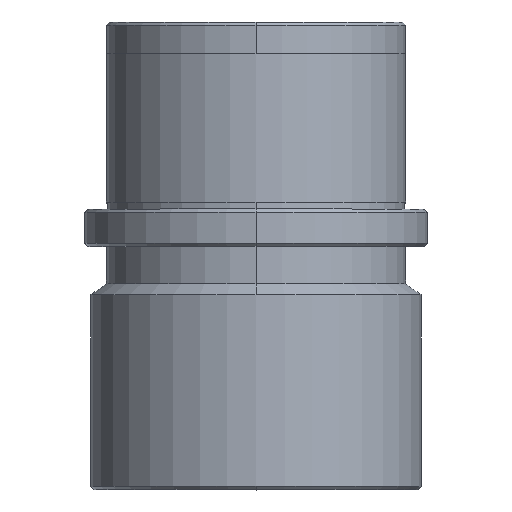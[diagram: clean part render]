
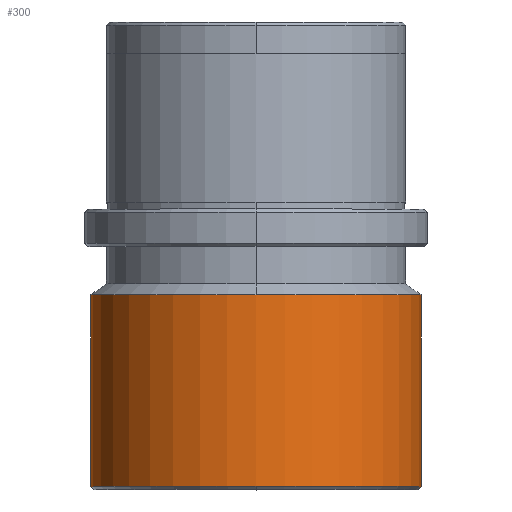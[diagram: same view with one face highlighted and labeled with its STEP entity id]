
A CAD part, top view. The second image highlights one B-rep face of the part: STEP entity #300.
In plain terms, the highlighted cylindrical face has radius 26.5 mm (diameter 53 mm), a partial arc.
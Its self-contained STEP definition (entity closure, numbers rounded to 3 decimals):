
#12 = DIRECTION ( 'NONE',  ( 0., -1., 0. ) ) ;
#14 = EDGE_CURVE ( 'NONE', #532, #1367, #992, .T. ) ;
#41 = CARTESIAN_POINT ( 'NONE',  ( 26.5, -38.5, 0. ) ) ;
#68 = ORIENTED_EDGE ( 'NONE', *, *, #14, .F. ) ;
#81 = CARTESIAN_POINT ( 'NONE',  ( 26.5, -7.732, 0. ) ) ;
#96 = DIRECTION ( 'NONE',  ( -1., 0., 0. ) ) ;
#157 = CARTESIAN_POINT ( 'NONE',  ( 0., -7.732, 26.5 ) ) ;
#161 = CIRCLE ( 'NONE', #172, 26.5 ) ;
#167 = CARTESIAN_POINT ( 'NONE',  ( 0., -7.732, 0. ) ) ;
#172 = AXIS2_PLACEMENT_3D ( 'NONE', #1349, #1063, #937 ) ;
#178 = ORIENTED_EDGE ( 'NONE', *, *, #925, .T. ) ;
#192 = LINE ( 'NONE', #41, #472 ) ;
#207 = EDGE_CURVE ( 'NONE', #581, #686, #842, .T. ) ;
#246 = DIRECTION ( 'NONE',  ( 0., 1., 0. ) ) ;
#300 = ADVANCED_FACE ( 'NONE', ( #696 ), #987, .T. ) ;
#346 = EDGE_CURVE ( 'NONE', #970, #581, #192, .T. ) ;
#352 = DIRECTION ( 'NONE',  ( 0., 0., 1. ) ) ;
#400 = EDGE_CURVE ( 'NONE', #532, #530, #728, .T. ) ;
#402 = ORIENTED_EDGE ( 'NONE', *, *, #1242, .T. ) ;
#404 = CARTESIAN_POINT ( 'NONE',  ( 0., -38.5, 0. ) ) ;
#472 = VECTOR ( 'NONE', #1325, 1000. ) ;
#525 = DIRECTION ( 'NONE',  ( 0., 1., 0. ) ) ;
#530 = VERTEX_POINT ( 'NONE', #1134 ) ;
#532 = VERTEX_POINT ( 'NONE', #586 ) ;
#534 = ORIENTED_EDGE ( 'NONE', *, *, #400, .T. ) ;
#581 = VERTEX_POINT ( 'NONE', #81 ) ;
#586 = CARTESIAN_POINT ( 'NONE',  ( -26.5, -38.5, 0. ) ) ;
#667 = CARTESIAN_POINT ( 'NONE',  ( 0., -38.5, 0. ) ) ;
#686 = VERTEX_POINT ( 'NONE', #157 ) ;
#696 = FACE_OUTER_BOUND ( 'NONE', #1133, .T. ) ;
#728 = CIRCLE ( 'NONE', #1120, 26.5 ) ;
#742 = DIRECTION ( 'NONE',  ( 0., 0., -1. ) ) ;
#776 = ORIENTED_EDGE ( 'NONE', *, *, #207, .T. ) ;
#785 = DIRECTION ( 'NONE',  ( 0., 1., 0. ) ) ;
#842 = CIRCLE ( 'NONE', #1156, 26.5 ) ;
#884 = DIRECTION ( 'NONE',  ( 0., -1., 0. ) ) ;
#894 = AXIS2_PLACEMENT_3D ( 'NONE', #167, #12, #1301 ) ;
#925 = EDGE_CURVE ( 'NONE', #686, #1367, #1040, .T. ) ;
#937 = DIRECTION ( 'NONE',  ( 0., 0., 1. ) ) ;
#970 = VERTEX_POINT ( 'NONE', #1392 ) ;
#987 = CYLINDRICAL_SURFACE ( 'NONE', #1071, 26.5 ) ;
#992 = LINE ( 'NONE', #1189, #1185 ) ;
#1004 = CARTESIAN_POINT ( 'NONE',  ( -26.5, -7.732, 0. ) ) ;
#1013 = CARTESIAN_POINT ( 'NONE',  ( 0., -7.732, 0. ) ) ;
#1040 = CIRCLE ( 'NONE', #894, 26.5 ) ;
#1063 = DIRECTION ( 'NONE',  ( 0., 1., 0. ) ) ;
#1071 = AXIS2_PLACEMENT_3D ( 'NONE', #404, #246, #96 ) ;
#1120 = AXIS2_PLACEMENT_3D ( 'NONE', #667, #525, #352 ) ;
#1133 = EDGE_LOOP ( 'NONE', ( #534, #402, #1282, #776, #178, #68 ) ) ;
#1134 = CARTESIAN_POINT ( 'NONE',  ( 0., -38.5, 26.5 ) ) ;
#1156 = AXIS2_PLACEMENT_3D ( 'NONE', #1013, #884, #742 ) ;
#1185 = VECTOR ( 'NONE', #785, 1000. ) ;
#1189 = CARTESIAN_POINT ( 'NONE',  ( -26.5, -38.5, 0. ) ) ;
#1242 = EDGE_CURVE ( 'NONE', #530, #970, #161, .T. ) ;
#1282 = ORIENTED_EDGE ( 'NONE', *, *, #346, .T. ) ;
#1301 = DIRECTION ( 'NONE',  ( 0., 0., -1. ) ) ;
#1325 = DIRECTION ( 'NONE',  ( 0., 1., 0. ) ) ;
#1349 = CARTESIAN_POINT ( 'NONE',  ( 0., -38.5, 0. ) ) ;
#1367 = VERTEX_POINT ( 'NONE', #1004 ) ;
#1392 = CARTESIAN_POINT ( 'NONE',  ( 26.5, -38.5, 0. ) ) ;
